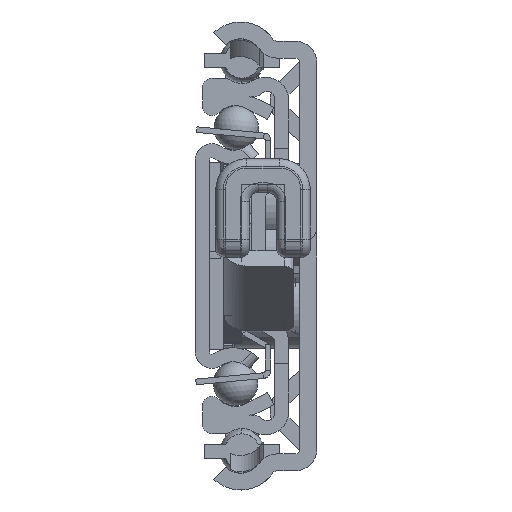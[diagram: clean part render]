
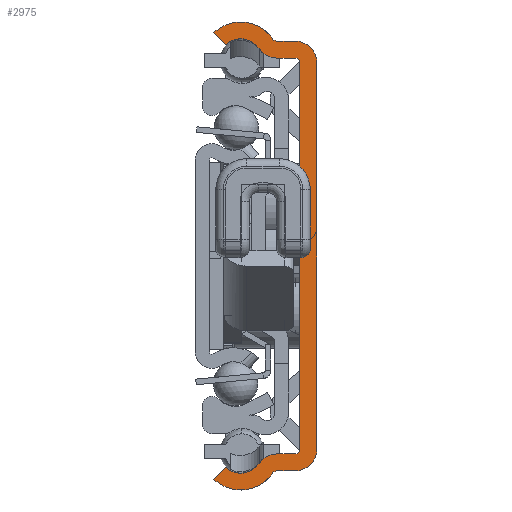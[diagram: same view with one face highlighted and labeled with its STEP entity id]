
A CAD part, left-side view. The second image highlights one B-rep face of the part: STEP entity #2975.
In plain terms, the highlighted planar face has unit normal (-1, 0, 0).
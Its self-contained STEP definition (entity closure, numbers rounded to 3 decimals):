
#1=DIRECTION('',(0.,1.,0.));
#2=VECTOR('',#1,1.975);
#3=CARTESIAN_POINT('',(0.,2.3,21.15));
#4=LINE('',#3,#2);
#5=CARTESIAN_POINT('',(0.,4.275,23.45));
#6=DIRECTION('',(-1.,0.,0.));
#7=DIRECTION('',(0.,0.827,-0.562));
#8=AXIS2_PLACEMENT_3D('',#5,#6,#7);
#10=CARTESIAN_POINT('',(0.,8.147,20.82));
#11=DIRECTION('',(-1.,0.,0.));
#12=DIRECTION('',(0.,-0.827,0.562));
#13=AXIS2_PLACEMENT_3D('',#10,#11,#12);
#15=DIRECTION('',(0.,0.683,0.731));
#16=VECTOR('',#15,1.8);
#17=CARTESIAN_POINT('',(0.,9.771,22.559));
#18=LINE('',#17,#16);
#19=CARTESIAN_POINT('',(0.,8.147,20.82));
#20=DIRECTION('',(1.,0.,0.));
#21=DIRECTION('',(0.,0.683,0.731));
#22=AXIS2_PLACEMENT_3D('',#19,#20,#21);
#24=DIRECTION('',(0.,-1.,0.));
#25=VECTOR('',#24,1.975);
#26=CARTESIAN_POINT('',(0.,4.275,22.95));
#27=LINE('',#26,#25);
#28=CARTESIAN_POINT('',(0.,2.3,20.65));
#29=DIRECTION('',(-1.,0.,0.));
#30=DIRECTION('',(0.,-1.,0.));
#31=AXIS2_PLACEMENT_3D('',#28,#29,#30);
#33=DIRECTION('',(0.,0.,-1.));
#34=VECTOR('',#33,41.3);
#35=CARTESIAN_POINT('',(0.,0.,20.65));
#36=LINE('',#35,#34);
#37=CARTESIAN_POINT('',(0.,2.3,-20.65));
#38=DIRECTION('',(-1.,0.,0.));
#39=DIRECTION('',(0.,0.,-1.));
#40=AXIS2_PLACEMENT_3D('',#37,#38,#39);
#42=DIRECTION('',(0.,1.,0.));
#43=VECTOR('',#42,1.975);
#44=CARTESIAN_POINT('',(0.,2.3,-22.95));
#45=LINE('',#44,#43);
#46=CARTESIAN_POINT('',(0.,8.147,-20.82));
#47=DIRECTION('',(1.,0.,0.));
#48=DIRECTION('',(0.,-0.827,-0.562));
#49=AXIS2_PLACEMENT_3D('',#46,#47,#48);
#51=DIRECTION('',(0.,-0.683,0.731));
#52=VECTOR('',#51,1.8);
#53=CARTESIAN_POINT('',(0.,11.,-23.875));
#54=LINE('',#53,#52);
#55=CARTESIAN_POINT('',(0.,8.147,-20.82));
#56=DIRECTION('',(-1.,0.,0.));
#57=DIRECTION('',(0.,0.683,-0.731));
#58=AXIS2_PLACEMENT_3D('',#55,#56,#57);
#60=CARTESIAN_POINT('',(0.,4.275,-23.45));
#61=DIRECTION('',(-1.,0.,0.));
#62=DIRECTION('',(0.,0.,1.));
#63=AXIS2_PLACEMENT_3D('',#60,#61,#62);
#65=DIRECTION('',(0.,-1.,0.));
#66=VECTOR('',#65,1.975);
#67=CARTESIAN_POINT('',(0.,4.275,-21.15));
#68=LINE('',#67,#66);
#204=DIRECTION('',(0.,0.,-1.));
#205=VECTOR('',#204,41.3);
#206=CARTESIAN_POINT('',(0.,1.8,20.65));
#207=LINE('',#206,#205);
#1007=CARTESIAN_POINT('',(0.,2.3,-20.65));
#1008=DIRECTION('',(1.,0.,0.));
#1009=DIRECTION('',(0.,-1.,0.));
#1010=AXIS2_PLACEMENT_3D('',#1007,#1008,#1009);
#1205=CARTESIAN_POINT('',(0.,2.3,20.65));
#1206=DIRECTION('',(1.,0.,0.));
#1207=DIRECTION('',(0.,0.,1.));
#1208=AXIS2_PLACEMENT_3D('',#1205,#1206,#1207);
#1369=CARTESIAN_POINT('',(0.,4.275,23.45));
#1370=DIRECTION('',(1.,0.,0.));
#1371=DIRECTION('',(0.,0.,-1.));
#1372=AXIS2_PLACEMENT_3D('',#1369,#1370,#1371);
#1509=CARTESIAN_POINT('',(0.,4.275,-23.45));
#1510=DIRECTION('',(1.,0.,0.));
#1511=DIRECTION('',(0.,0.827,0.562));
#1512=AXIS2_PLACEMENT_3D('',#1509,#1510,#1511);
#2268=CARTESIAN_POINT('',(0.,11.,-23.875));
#2269=CARTESIAN_POINT('',(0.,9.771,-22.559));
#2270=VERTEX_POINT('',#2268);
#2271=VERTEX_POINT('',#2269);
#2272=CARTESIAN_POINT('',(0.,9.771,22.559));
#2273=CARTESIAN_POINT('',(0.,11.,23.875));
#2274=VERTEX_POINT('',#2272);
#2275=VERTEX_POINT('',#2273);
#2284=CARTESIAN_POINT('',(0.,4.275,22.95));
#2285=CARTESIAN_POINT('',(0.,4.689,23.169));
#2286=VERTEX_POINT('',#2284);
#2287=VERTEX_POINT('',#2285);
#2292=CARTESIAN_POINT('',(0.,4.689,-23.169));
#2293=CARTESIAN_POINT('',(0.,4.275,-22.95));
#2294=VERTEX_POINT('',#2292);
#2295=VERTEX_POINT('',#2293);
#2300=CARTESIAN_POINT('',(0.,2.3,-21.15));
#2302=VERTEX_POINT('',#2300);
#2304=CARTESIAN_POINT('',(0.,2.3,21.15));
#2306=VERTEX_POINT('',#2304);
#2308=CARTESIAN_POINT('',(0.,1.8,-20.65));
#2309=VERTEX_POINT('',#2308);
#2312=CARTESIAN_POINT('',(0.,1.8,20.65));
#2313=VERTEX_POINT('',#2312);
#2316=CARTESIAN_POINT('',(0.,4.275,-21.15));
#2317=CARTESIAN_POINT('',(0.,6.178,-22.157));
#2318=VERTEX_POINT('',#2316);
#2319=VERTEX_POINT('',#2317);
#2324=CARTESIAN_POINT('',(0.,0.,20.65));
#2325=CARTESIAN_POINT('',(0.,2.3,22.95));
#2326=VERTEX_POINT('',#2324);
#2327=VERTEX_POINT('',#2325);
#2332=CARTESIAN_POINT('',(0.,6.178,22.157));
#2333=CARTESIAN_POINT('',(0.,4.275,21.15));
#2334=VERTEX_POINT('',#2332);
#2335=VERTEX_POINT('',#2333);
#2340=CARTESIAN_POINT('',(0.,2.3,-22.95));
#2341=CARTESIAN_POINT('',(0.,0.,-20.65));
#2342=VERTEX_POINT('',#2340);
#2343=VERTEX_POINT('',#2341);
#2928=CARTESIAN_POINT('',(0.,0.,0.));
#2929=DIRECTION('',(1.,0.,0.));
#2930=DIRECTION('',(0.,-1.,0.));
#2931=AXIS2_PLACEMENT_3D('',#2928,#2929,#2930);
#2932=PLANE('',#2931);
#2934=ORIENTED_EDGE('',*,*,#2933,.F.);
#2936=ORIENTED_EDGE('',*,*,#2935,.F.);
#2938=ORIENTED_EDGE('',*,*,#2937,.T.);
#2940=ORIENTED_EDGE('',*,*,#2939,.F.);
#2942=ORIENTED_EDGE('',*,*,#2941,.T.);
#2944=ORIENTED_EDGE('',*,*,#2943,.T.);
#2946=ORIENTED_EDGE('',*,*,#2945,.T.);
#2948=ORIENTED_EDGE('',*,*,#2947,.F.);
#2950=ORIENTED_EDGE('',*,*,#2949,.T.);
#2952=ORIENTED_EDGE('',*,*,#2951,.F.);
#2954=ORIENTED_EDGE('',*,*,#2953,.T.);
#2956=ORIENTED_EDGE('',*,*,#2955,.F.);
#2958=ORIENTED_EDGE('',*,*,#2957,.T.);
#2960=ORIENTED_EDGE('',*,*,#2959,.F.);
#2962=ORIENTED_EDGE('',*,*,#2961,.T.);
#2964=ORIENTED_EDGE('',*,*,#2963,.T.);
#2966=ORIENTED_EDGE('',*,*,#2965,.T.);
#2968=ORIENTED_EDGE('',*,*,#2967,.F.);
#2970=ORIENTED_EDGE('',*,*,#2969,.T.);
#2972=ORIENTED_EDGE('',*,*,#2971,.F.);
#2973=EDGE_LOOP('',(#2934,#2936,#2938,#2940,#2942,#2944,#2946,#2948,#2950,#2952,
#2954,#2956,#2958,#2960,#2962,#2964,#2966,#2968,#2970,#2972));
#2974=FACE_OUTER_BOUND('',#2973,.F.);
#9=CIRCLE('',#8,2.3);
#14=CIRCLE('',#13,2.38);
#23=CIRCLE('',#22,4.18);
#32=CIRCLE('',#31,2.3);
#41=CIRCLE('',#40,2.3);
#50=CIRCLE('',#49,4.18);
#59=CIRCLE('',#58,2.38);
#64=CIRCLE('',#63,2.3);
#1011=CIRCLE('',#1010,0.5);
#1209=CIRCLE('',#1208,0.5);
#1373=CIRCLE('',#1372,0.5);
#1513=CIRCLE('',#1512,0.5);
#2933=EDGE_CURVE('',#2313,#2309,#207,.T.);
#2935=EDGE_CURVE('',#2306,#2313,#1209,.T.);
#2937=EDGE_CURVE('',#2306,#2335,#4,.T.);
#2939=EDGE_CURVE('',#2334,#2335,#9,.T.);
#2941=EDGE_CURVE('',#2334,#2274,#14,.T.);
#2943=EDGE_CURVE('',#2274,#2275,#18,.T.);
#2945=EDGE_CURVE('',#2275,#2287,#23,.T.);
#2947=EDGE_CURVE('',#2286,#2287,#1373,.T.);
#2949=EDGE_CURVE('',#2286,#2327,#27,.T.);
#2951=EDGE_CURVE('',#2326,#2327,#32,.T.);
#2953=EDGE_CURVE('',#2326,#2343,#36,.T.);
#2955=EDGE_CURVE('',#2342,#2343,#41,.T.);
#2957=EDGE_CURVE('',#2342,#2295,#45,.T.);
#2959=EDGE_CURVE('',#2294,#2295,#1513,.T.);
#2961=EDGE_CURVE('',#2294,#2270,#50,.T.);
#2963=EDGE_CURVE('',#2270,#2271,#54,.T.);
#2965=EDGE_CURVE('',#2271,#2319,#59,.T.);
#2967=EDGE_CURVE('',#2318,#2319,#64,.T.);
#2969=EDGE_CURVE('',#2318,#2302,#68,.T.);
#2971=EDGE_CURVE('',#2309,#2302,#1011,.T.);
#2975=ADVANCED_FACE('',(#2974),#2932,.F.);
